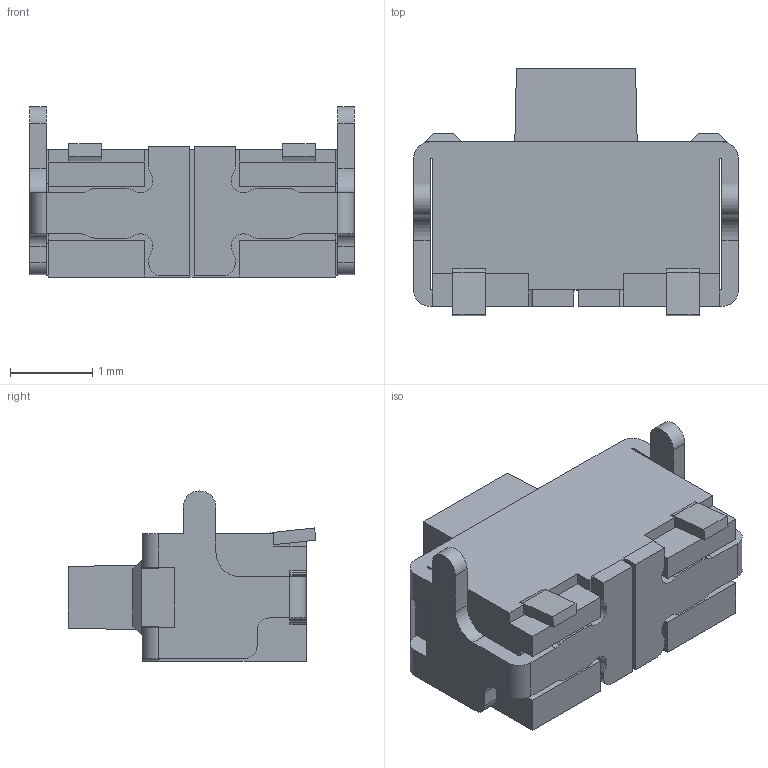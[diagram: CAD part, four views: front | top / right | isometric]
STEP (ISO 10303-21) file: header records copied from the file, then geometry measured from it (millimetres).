
FILE_DESCRIPTION((''),'2;1');
FILE_NAME('JQD1641-B0291-AG-1-105_ASM','2026-05-20T14:59:57',('Admin'),(''),'CREO PARAMETRIC BY PTC INC, 2019224','CREO PARAMETRIC BY PTC INC, 2019224','');
FILE_SCHEMA(('AUTOMOTIVE_DESIGN { 1 0 10303 214 1 1 1 1 }'));
Length unit declared in the file: millimetre
Products named in the file (2): JQD1641-B0291-AG-1-105_01; JQD1641-B0291-AG-1-105_ASM
Assembly tree (1 placements, depth 2):
  JQD1641-B0291-AG-1-105_ASM
    JQD1641-B0291-AG-1-105_01
Bounding box: 3.95 x 3.02 x 2.07 mm (x, y, z)
Volume: 12.1 mm3; surface area: 64.8 mm2
Topology: 1 solids, 16 shells, 265 faces, 743 edges, 506 vertices
Faces by surface type: plane 201, cylinder 64
Entity records: 8946 total; most frequent: CARTESIAN_POINT 1527, ORIENTED_EDGE 1448, DIRECTION 1431, EDGE_CURVE 736, VECTOR 595, LINE 595, VERTEX_POINT 496, AXIS2_PLACEMENT_3D 418
